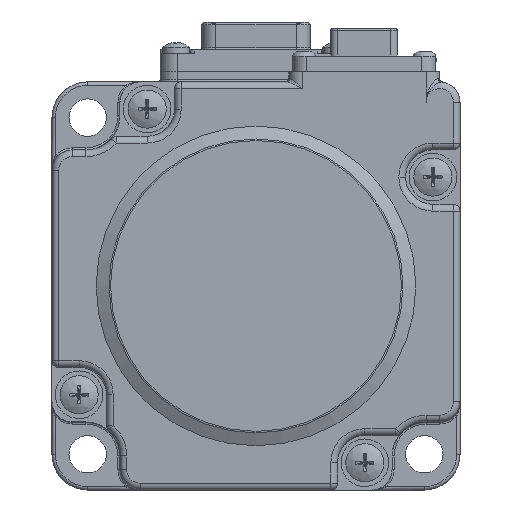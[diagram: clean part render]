
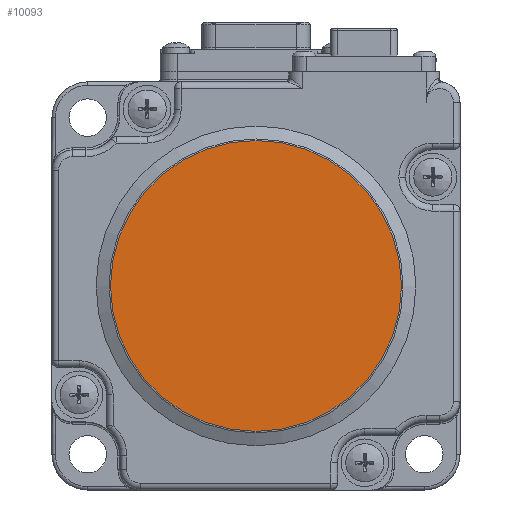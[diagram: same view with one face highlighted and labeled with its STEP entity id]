
A CAD part, left-side view. The second image highlights one B-rep face of the part: STEP entity #10093.
In plain terms, the highlighted planar face has unit normal (-1, 0, 0).
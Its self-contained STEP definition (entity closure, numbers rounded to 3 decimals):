
#10093 = ADVANCED_FACE('',(#10094),#10105,.T.);
#10094 = FACE_BOUND('',#10095,.T.);
#10095 = EDGE_LOOP('',(#10096));
#10096 = ORIENTED_EDGE('',*,*,#10097,.T.);
#10097 = EDGE_CURVE('',#10098,#10098,#10100,.T.);
#10098 = VERTEX_POINT('',#10099);
#10099 = CARTESIAN_POINT('',(-25.844,10.197,
    38.618));
#10100 = CIRCLE('',#10101,21.382);
#10101 = AXIS2_PLACEMENT_3D('',#10102,#10103,#10104);
#10102 = CARTESIAN_POINT('',(-25.844,10.197,60.));
#10103 = DIRECTION('',(-1.,0.,0.));
#10104 = DIRECTION('',(0.,0.,-1.));
#10105 = PLANE('',#10106);
#10106 = AXIS2_PLACEMENT_3D('',#10107,#10108,#10109);
#10107 = CARTESIAN_POINT('',(-25.844,10.197,60.));
#10108 = DIRECTION('',(-1.,0.,0.));
#10109 = DIRECTION('',(0.,0.,-1.));
